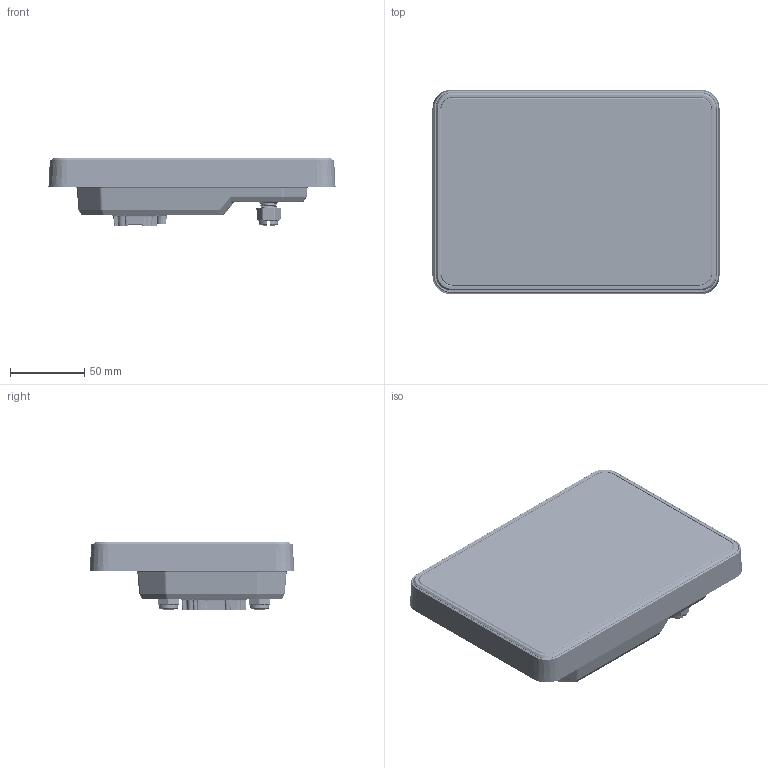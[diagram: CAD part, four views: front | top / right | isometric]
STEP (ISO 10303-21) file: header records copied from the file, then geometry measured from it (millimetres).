
FILE_DESCRIPTION (( 'STEP AP214' ), '1' );
FILE_NAME ('CL-714-100-XX-0XX.STEP', '2022-10-24T22:31:51', ( 'setup' ), ( 'Microsoft' ), 'SwSTEP 2.0', 'SolidWorks 2019', '' );
FILE_SCHEMA (( 'AUTOMOTIVE_DESIGN' ));
Length unit declared in the file: inch
Products named in the file (22): CL-714-211; touch_screen_FPC_7inch_Bent; 175-0306-S0-G; 175-01-713_GASKET; TOUCH_SENSOR__7inch_WIN; CL-714-505; Spirol_29_short_flanged_metric; 175-01-713; CL-714-100-XX-0XX; 209-02-612_IN ASSEMBLY; 186-14-715; 209-02-616_With Buttons; 175-0306-S0-G-BASE; PCB_v18; 175-45-635; LOCA_LENS TO SENSOR_WIN; ZZ06000TBD_7inch_WIN
Assembly tree (49 placements, depth 5):
  CL-714-100-XX-0XX
    CL-714-505
      CL-714-505
      Spirol_29_short_flanged_metric  x6
    186-14-715
    PCB_v18
      175-0306-S0-G
        175-0306-S0-G-BASE
        175-45-635  x18
    CL-714-211
      209-02-612_IN ASSEMBLY
        209-02-616_With Buttons
        LOCA_LENS TO SENSOR_WIN
        ZZ06000TBD_7inch_WIN
          TOUCH_SENSOR__7inch_WIN
          touch_screen_FPC_7inch_Bent
    175-01-713
      175-01-713
      175-01-713_GASKET
    175-01-713
      175-01-713
      175-01-713_GASKET
    175-01-713
      175-01-713
      175-01-713_GASKET
    175-01-713
      175-01-713
      175-01-713_GASKET
Bounding box: 193.22 x 137.62 x 45.91 mm (x, y, z)
Volume: 114584.5 mm3; surface area: 265099.9 mm2
Topology: 38 solids, 40 shells, 3789 faces, 9010 edges, 5412 vertices
Faces by surface type: cylinder 1299, plane 927, bspline 817, cone 349, torus 268, sphere 129
Entity records: 122419 total; most frequent: CARTESIAN_POINT 56784, ORIENTED_EDGE 14532, DIRECTION 12127, EDGE_CURVE 7269, AXIS2_PLACEMENT_3D 4551, VERTEX_POINT 4372, EDGE_LOOP 3196, LINE 3025
